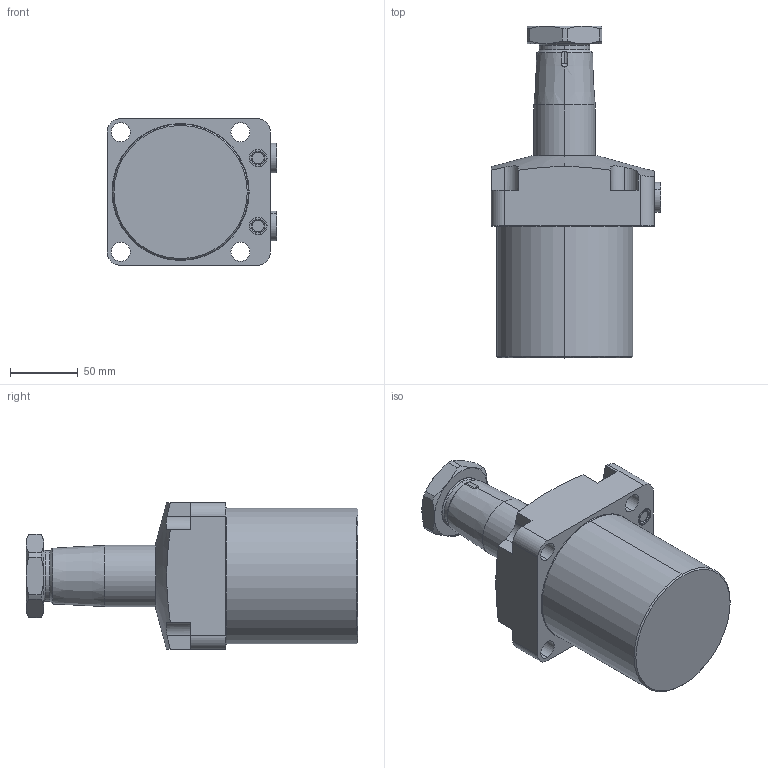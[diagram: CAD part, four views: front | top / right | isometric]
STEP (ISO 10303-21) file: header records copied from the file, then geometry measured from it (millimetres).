
FILE_DESCRIPTION(/* description */ (''),/* implementation_level */ '2;1');
FILE_NAME(/* name */ 'TRC25-L.stp',/* time_stamp */ '2025-01-04T08:45:01+08:00',/* author */ (''),/* organization */ (''),/* preprocessor_version */ 'ST-DEVELOPER v16.7',/* originating_system */ 'SIEMENS PLM Software NX 12.0',/* authorisation */ '');
FILE_SCHEMA (('AUTOMOTIVE_DESIGN { 1 0 10303 214 3 1 1 1 }'));
Length unit declared in the file: millimetre
Products named in the file (5): TRC25-L-02; TRC25-L-03; TRC25-L-04; TRC25-L-01; TRC25-L_stp
Assembly tree (5 placements, depth 2):
  TRC25-L_stp
    TRC25-L-01
    TRC25-L-04  x2
    TRC25-L-03
    TRC25-L-02
Bounding box: 124.8 x 244 x 108 mm (x, y, z)
Volume: 1412981.2 mm3; surface area: 113328.4 mm2
Topology: 5 solids, 7 shells, 203 faces, 465 edges, 288 vertices
Faces by surface type: cylinder 73, plane 67, cone 40, torus 22, sphere 1
Entity records: 5410 total; most frequent: CARTESIAN_POINT 1086, DIRECTION 938, ORIENTED_EDGE 836, EDGE_CURVE 418, AXIS2_PLACEMENT_3D 386, VERTEX_POINT 260, EDGE_LOOP 206, CIRCLE 199
